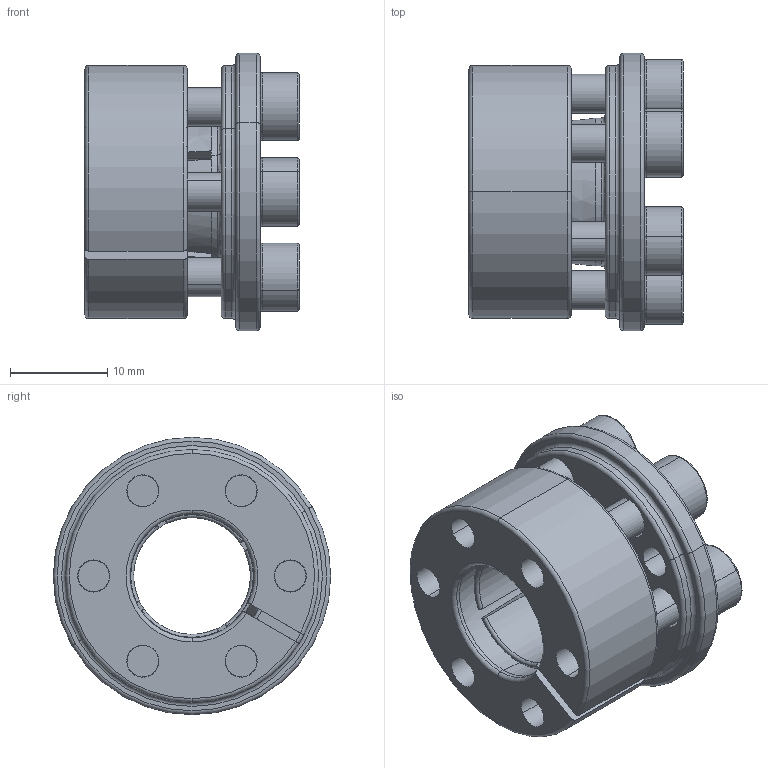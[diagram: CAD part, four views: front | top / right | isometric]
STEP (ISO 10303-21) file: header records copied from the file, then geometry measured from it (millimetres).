
FILE_DESCRIPTION (( 'STEP AP203' ), '1' );
FILE_NAME ('SAPA-12-26-45C.STEP', '2013-01-22T06:51:59', ( '' ), ( '' ), 'SwSTEP 2.0', 'SolidWorks 2012', '' );
FILE_SCHEMA (( 'CONFIG_CONTROL_DESIGN' ));
Length unit declared in the file: millimetre
Products named in the file (1): SAPA-12-26-45C
Bounding box: 22 x 28.5 x 28.5 mm (x, y, z)
Volume: 7073.4 mm3; surface area: 5707.8 mm2
Topology: 1 solids, 1 shells, 290 faces, 715 edges, 426 vertices
Faces by surface type: plane 113, cylinder 78, torus 68, cone 31
Entity records: 8797 total; most frequent: CARTESIAN_POINT 1690, DIRECTION 1610, ORIENTED_EDGE 1406, EDGE_CURVE 703, AXIS2_PLACEMENT_3D 666, VERTEX_POINT 426, CIRCLE 375, EDGE_LOOP 327
